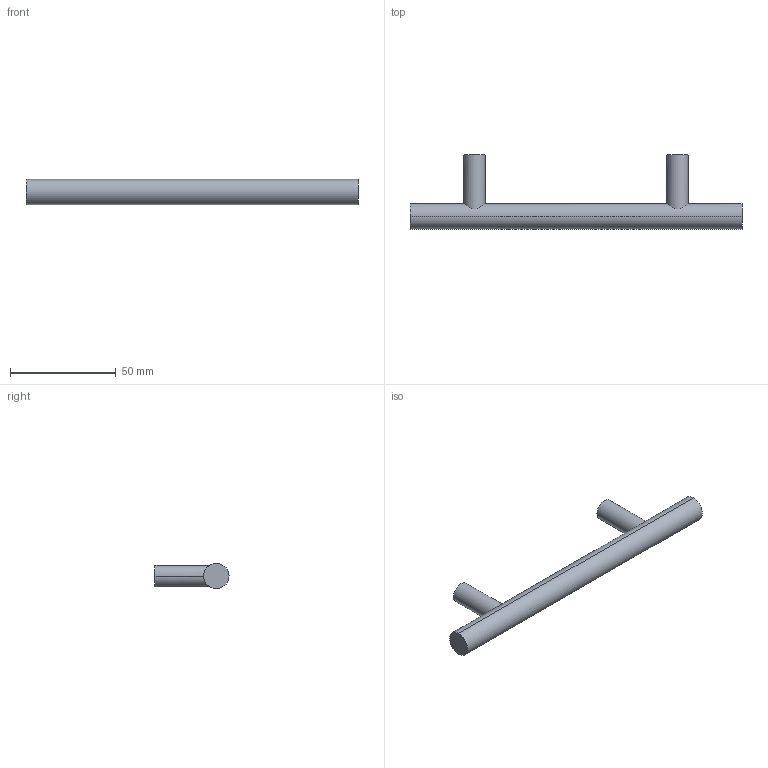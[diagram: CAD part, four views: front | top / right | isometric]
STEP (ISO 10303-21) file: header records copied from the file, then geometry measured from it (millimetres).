
FILE_DESCRIPTION( ( '' ), '1' );
FILE_NAME( 'D:/1.AUTOCAD EXPORT/Group 10/sheet_10_1/9071003.stp', '2013-10-21T10:32:38', ( '' ), ( '' ), ' ', ' ', ' ' );
FILE_SCHEMA( ( 'automotive_design' ) );
Length unit declared in the file: millimetre
Products named in the file (1): 1
Bounding box: 157 x 35 x 12 mm (x, y, z)
Volume: 21158.7 mm3; surface area: 7950.3 mm2
Topology: 1 solids, 1 shells, 16 faces, 32 edges, 22 vertices
Faces by surface type: cylinder 10, plane 6
Entity records: 972 total; most frequent: CARTESIAN_POINT 205, DIRECTION 76, STYLED_ITEM 71, PRESENTATION_STYLE_ASSIGNMENT 71, COLOUR_RGB 71, ORIENTED_EDGE 64, AXIS2_PLACEMENT_3D 33, EDGE_CURVE 32
